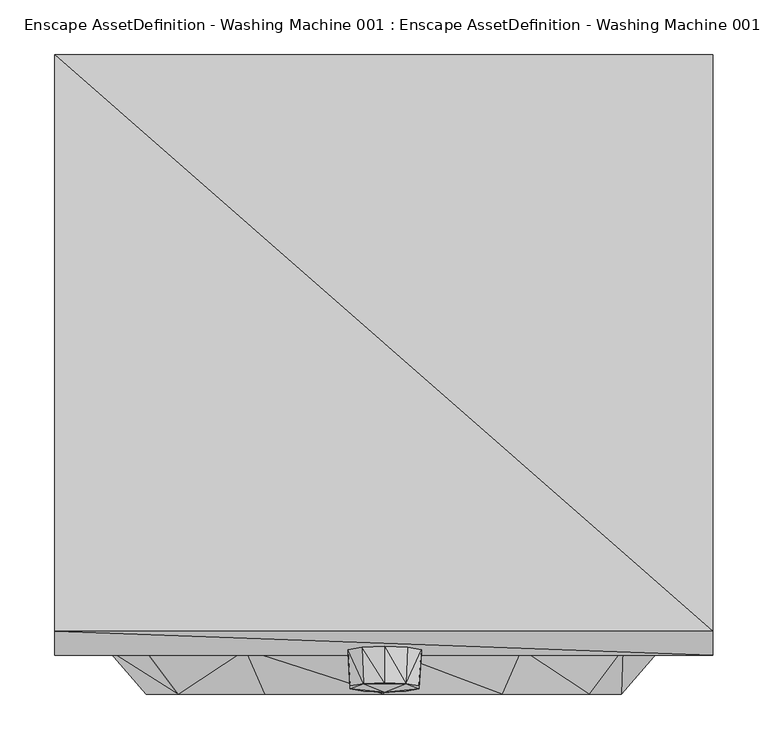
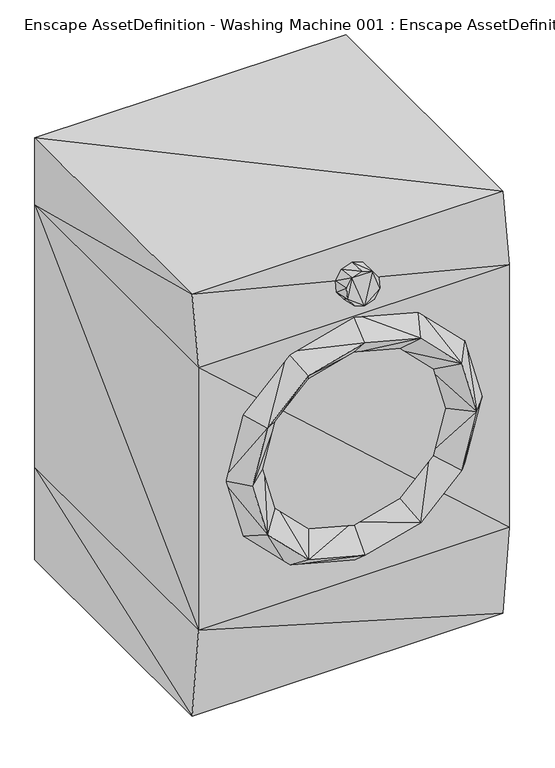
"""IFC4 building model written with IfcOpenShell, lengths in millimetres: geographic element geometry, Enscape AssetDefinition - Washing Machine 001 : Enscape AssetDefinition - Washing Machine 001."""

import ifcopenshell
import ifcopenshell.guid

model = None  # the IFC model being written
_history = None  # IfcOwnerHistory: only IFC2X3 demands one
_inside = {}  # id of a spatial element -> (the spatial element, [elements in it])
_under = {}  # id of a project, library or spatial element -> (it, [spatial elements below it])
_declared = {}  # id of a project -> (the project, [libraries it declares])
_typed = {}  # id of a type object -> (the type object, [elements of that type])
_made_of = {}  # id of a material, layer set ... -> (it, [elements and type objects made of it])


def new_model(schema):
    """Start an empty IFC model of exactly this schema.

    Asked for "IFC4X3", IfcOpenShell would pick the latest addendum, in which some entities
    have other attributes; the version numbers below select the first issue.
    IFC2X3 requires an IfcOwnerHistory on every rooted entity: one is made here for all.
    """
    global model, _history
    if schema == "IFC4X3":
        model = ifcopenshell.file(schema_version=(4, 3, 0, 0))
    else:
        model = ifcopenshell.file(schema=schema)
    _inside.clear()
    _under.clear()
    _declared.clear()
    _typed.clear()
    _made_of.clear()
    _history = None
    if model.schema == "IFC2X3":
        org = make("IfcOrganization", Name="unknown")
        user = make(
            "IfcPersonAndOrganization",
            ThePerson=make("IfcPerson", FamilyName="unknown"),
            TheOrganization=org,
        )
        app = make(
            "IfcApplication",
            ApplicationDeveloper=org,
            Version="unknown",
            ApplicationFullName="unknown",
            ApplicationIdentifier="unknown",
        )
        _history = make(
            "IfcOwnerHistory",
            OwningUser=user,
            OwningApplication=app,
            ChangeAction="ADDED",
            CreationDate=0,
        )
    return model


def make(cls, **values):
    """One entity of the class cls with the attributes given. An attribute that is None is left unset."""
    return model.create_entity(
        cls, **{name: value for name, value in values.items() if value is not None}
    )


def rooted(cls, **values):
    """An entity with a GlobalId (a new one), such as an element, a storey or a relation."""
    return make(cls, GlobalId=ifcopenshell.guid.new(), OwnerHistory=_history, **values)


def si_unit(unit_type, name, prefix=None):
    """IfcSIUnit, for example si_unit("LENGTHUNIT", "METRE", prefix="MILLI")."""
    return make("IfcSIUnit", UnitType=unit_type, Prefix=prefix, Name=name)


def assignment(units):
    """IfcUnitAssignment: the units of a project."""
    return None if units is None else make("IfcUnitAssignment", Units=units)


def point(xyz):
    """IfcCartesianPoint."""
    return None if xyz is None else make("IfcCartesianPoint", Coordinates=xyz)


def direction(xyz):
    """IfcDirection."""
    return None if xyz is None else make("IfcDirection", DirectionRatios=xyz)


def frame(location, z_axis=None, x_axis=None):
    """IfcAxis2Placement3D, a coordinate frame: its origin and axes. An axis left out is left unset."""
    return make(
        "IfcAxis2Placement3D",
        Location=point(location),
        Axis=direction(z_axis),
        RefDirection=direction(x_axis),
    )


def origin():
    """The frame at (0, 0, 0) with its axes left unset."""
    return frame((0.0, 0.0, 0.0))


def place(relative_to, where):
    """IfcLocalPlacement: puts the frame where relative to a parent placement (None: the world)."""
    return make(
        "IfcLocalPlacement", PlacementRelTo=relative_to, RelativePlacement=where
    )


def context(
    kind, dimensions, precision=None, world=None, true_north=None, identifier=None
):
    """IfcGeometricRepresentationContext, for example the 3D "Model" context."""
    return make(
        "IfcGeometricRepresentationContext",
        ContextIdentifier=identifier,
        ContextType=kind,
        CoordinateSpaceDimension=dimensions,
        Precision=precision,
        WorldCoordinateSystem=world,
        TrueNorth=true_north,
    )


def project(units=None, contexts=None):
    """IfcProject with its units and contexts."""
    return rooted(
        "IfcProject",
        Name="project",
        RepresentationContexts=contexts,
        UnitsInContext=assignment(units),
    )


def spatial(cls, under=None, at=None, **own):
    """A site, building, storey or space (cls), placed at a placement, below another one or the project."""
    s = rooted(cls, ObjectPlacement=at, **own)
    if under is not None:
        _under.setdefault(under.id(), (under, []))[1].append(s)
    return s


def faces_of(points, faces, orient=None, outer=None):
    """IfcFace entities. A face is a list of loops; a loop is a list of indices into points, from 0.

    orient and outer hold one flag for each loop. By default every Orientation is true, the
    first loop of a face is its IfcFaceOuterBound and the others are IfcFaceBound.
    """
    made = []
    for i, loops in enumerate(faces):
        bounds = []
        for j, loop in enumerate(loops):
            is_outer = j == 0 if outer is None else outer[i][j]
            bounds.append(
                make(
                    "IfcFaceOuterBound" if is_outer else "IfcFaceBound",
                    Bound=make("IfcPolyLoop", Polygon=[points[k] for k in loop]),
                    Orientation=True if orient is None else orient[i][j],
                )
            )
        made.append(make("IfcFace", Bounds=bounds))
    return made


def faceted_brep(points, faces, orient=None, outer=None, voids=None):
    """IfcFacetedBrep: a solid bounded by flat faces; with voids (closed shells), ...WithVoids."""
    shared = [point(p) for p in points]
    hull = make("IfcClosedShell", CfsFaces=faces_of(shared, faces, orient, outer))
    if voids is None:
        return make("IfcFacetedBrep", Outer=hull)
    return make(
        "IfcFacetedBrepWithVoids",
        Outer=hull,
        Voids=[
            make(cls, CfsFaces=faces_of(shared, fs, o, b)) for cls, fs, o, b in voids
        ],
    )


def shape(context_of_items, identifier, shape_type, items):
    """IfcShapeRepresentation: the items that make up one representation, for example the "Body"."""
    return make(
        "IfcShapeRepresentation",
        ContextOfItems=context_of_items,
        RepresentationIdentifier=identifier,
        RepresentationType=shape_type,
        Items=items,
    )


def source(mapping_origin, context_of_items, identifier, shape_type, items):
    """IfcRepresentationMap: a shape defined once, which mapped items show again and again."""
    return make(
        "IfcRepresentationMap",
        MappingOrigin=mapping_origin,
        MappedRepresentation=shape(context_of_items, identifier, shape_type, items),
    )


def transform(
    local_origin,
    x_axis=None,
    y_axis=None,
    z_axis=None,
    scale=None,
    scale2=None,
    scale3=None,
    uniform=True,
):
    """IfcCartesianTransformationOperator3D, or its non-uniform kind. x_axis, y_axis, z_axis: its Axis1, 2, 3."""
    if uniform:
        return make(
            "IfcCartesianTransformationOperator3D",
            Axis1=direction(x_axis),
            Axis2=direction(y_axis),
            LocalOrigin=point(local_origin),
            Scale=scale,
            Axis3=direction(z_axis),
        )
    return make(
        "IfcCartesianTransformationOperator3DnonUniform",
        Axis1=direction(x_axis),
        Axis2=direction(y_axis),
        LocalOrigin=point(local_origin),
        Scale=scale,
        Axis3=direction(z_axis),
        Scale2=scale2,
        Scale3=scale3,
    )


def mapped(mapping_source, mapping_target):
    """IfcMappedItem: shows the shape of a source again, moved by a transform."""
    return make(
        "IfcMappedItem", MappingSource=mapping_source, MappingTarget=mapping_target
    )


def made_of(thing, what):
    """Note that an element or type object is made of a material, layer set ...; save() writes the relation."""
    if what is not None:
        _made_of.setdefault(what.id(), (what, []))[1].append(thing)
    return thing


def element(
    cls,
    number,
    at=None,
    inside=None,
    cuts=None,
    type_object=None,
    material=None,
    context=None,
    identifier="Body",
    shape_type=None,
    held_by="IfcProductDefinitionShape",
    body=None,
    shapes=None,
    **own,
):
    """One element of the class cls, such as IfcWall. Its Tag is "e" and its number.

    at: its placement. inside: the storey or other place that contains it. cuts: it is an
    opening in that element (IfcRelVoidsElement). A single representation is given by context,
    identifier, shape_type and body (its items); several are given by shapes. held_by: the class
    of the entity that holds the representations. save() writes the other relations.
    """
    e = rooted(cls, Tag="e%d" % number, ObjectPlacement=at, **own)
    if body is not None:
        shapes = [shape(context, identifier, shape_type, body)]
    if shapes is not None:
        e.Representation = make(held_by, Representations=shapes)
    if inside is not None:
        _inside.setdefault(inside.id(), (inside, []))[1].append(e)
    if cuts is not None:
        rooted(
            "IfcRelVoidsElement", RelatingBuildingElement=cuts, RelatedOpeningElement=e
        )
    if type_object is not None:
        _typed.setdefault(type_object.id(), (type_object, []))[1].append(e)
    return made_of(e, material)


def aggregate(whole, parts):
    """IfcRelAggregates: a whole, such as a stair, and the parts it consists of."""
    return rooted("IfcRelAggregates", RelatingObject=whole, RelatedObjects=parts)


def save(model, path):
    """Write the relations noted so far, then the file.

    IfcRelAggregates (storeys below a building ...), IfcRelContainedInSpatialStructure (elements
    in a storey), IfcRelDefinesByType, IfcRelAssociatesMaterial and IfcRelDeclares: one each for
    every whole, place, type object, material and project.
    """
    for whole, parts in _under.values():
        aggregate(whole, parts)
    for where, things in _inside.values():
        rooted(
            "IfcRelContainedInSpatialStructure",
            RelatedElements=things,
            RelatingStructure=where,
        )
    for kind, things in _typed.values():
        rooted("IfcRelDefinesByType", RelatedObjects=things, RelatingType=kind)
    for what, things in _made_of.values():
        rooted("IfcRelAssociatesMaterial", RelatedObjects=things, RelatingMaterial=what)
    for by, libraries in _declared.values():
        rooted("IfcRelDeclares", RelatingContext=by, RelatedDefinitions=libraries)
    model.write(path)


def enscape_assetdefinition_washing_machine_001_enscape_1ae1e846(model_context):
    return source(origin(), model_context, "Body", "Brep", [
        faceted_brep([(0.7596256, -272.0038891, 756.3675642), (-19.8820289, -263.5681331, 819.3345666), (21.4022771, -263.5681331, 819.3345666), (0.7596256, -262.6767457, 825.982511), (0.7596256, -295.9475517, 828.1925321), (-32.6399468, -265.8989131, 801.9310832), (-18.5733959, -296.7820168, 821.9668269), (-32.6399468, -268.7816918, 780.4190516), (20.0926475, -296.7820168, 821.9668269), (0.7596256, -304.6827316, 762.9925013), (32.0420265, -298.96608, 805.6663275), (34.1591984, -265.8989131, 801.9310832), (32.0420265, -301.6651869, 785.5187654), (34.1591984, -268.7816918, 780.4190516), (20.0926475, -303.8482368, 769.218266), (21.4022771, -271.1124718, 763.0155087), (-19.8820289, -271.1124718, 763.0155087), (-18.5733959, -303.8482368, 769.218266), (-30.5217784, -301.6651869, 785.5187654), (-30.5217784, -298.96608, 805.6663275)], [[[0, 1, 2]], [[3, 1, 4]], [[1, 5, 6]], [[1, 7, 5]], [[2, 1, 3]], [[0, 7, 1]], [[4, 1, 6]], [[8, 3, 4]], [[6, 8, 4]], [[2, 3, 8]], [[6, 9, 8]], [[10, 11, 8]], [[8, 12, 10]], [[8, 9, 12]], [[8, 11, 2]], [[13, 11, 12]], [[13, 2, 11]], [[12, 11, 10]], [[14, 15, 12]], [[12, 15, 13]], [[12, 9, 14]], [[2, 13, 15]], [[2, 15, 0]], [[0, 15, 9]], [[9, 15, 14]], [[16, 0, 17]], [[7, 0, 16]], [[17, 0, 9]], [[18, 16, 17]], [[9, 18, 17]], [[7, 16, 18]], [[5, 7, 19]], [[19, 7, 18]], [[18, 6, 19]], [[9, 6, 18]], [[6, 5, 19]]]),
        faceted_brep([(-299.2864847, -249.4297028, 0.0), (-299.2864847, 274.9695182, 0.0), (299.2864847, -249.4297028, 0.0), (299.2864847, 274.9695182, 0.0), (299.2864847, 274.9695182, 187.4997616), (-299.2864847, 274.9695182, 187.4997616), (-299.2864847, -271.0506022, 187.4997616), (299.2864847, -271.0506022, 187.4997616), (299.2864847, 274.9695182, 721.4477062), (299.2864847, -271.0506022, 721.4477062), (-299.2864847, 274.9695182, 721.4477062), (-299.2864847, -271.0506022, 721.4477062), (-299.2864847, -249.4297028, 857.7939868), (299.2864847, -249.4297028, 857.7939868), (299.2864847, 274.9695182, 857.7939868), (-299.2864847, 274.9695182, 857.7939868)], [[[0, 1, 2]], [[3, 1, 4]], [[1, 0, 5]], [[2, 1, 3]], [[4, 1, 5]], [[0, 2, 6]], [[5, 0, 6]], [[7, 2, 4]], [[4, 2, 3]], [[6, 2, 7]], [[8, 9, 4]], [[5, 8, 4]], [[4, 9, 7]], [[10, 8, 5]], [[6, 10, 5]], [[11, 10, 6]], [[7, 11, 6]], [[9, 11, 7]], [[11, 9, 12]], [[9, 8, 13]], [[12, 9, 13]], [[8, 10, 14]], [[13, 8, 14]], [[15, 10, 12]], [[12, 10, 11]], [[14, 10, 15]], [[12, 13, 15]], [[15, 13, 14]]]),
        faceted_brep([(187.2711778, -306.6362143, 580.9090137), (216.241762, -306.6362143, 472.7885723), (217.7729905, -265.9058869, 598.5190868), (187.2701794, -306.6362143, 364.667207), (251.4620423, -265.9058869, 472.7885723), (171.3998914, -267.1955824, 472.7885723), (148.436442, -267.1955824, 558.4885478), (148.436442, -267.1955824, 387.0886564), (108.1203744, -306.6362143, 285.5173945), (217.7729905, -265.9058869, 347.0570743), (85.6999457, -267.1955824, 621.225059), (108.1213802, -306.6362143, 660.0587368), (0.0, -267.1955824, 644.1884637), (125.7315129, -265.9058869, 690.5615926), (0.0, -306.6362143, 689.0303493), (0.0, -265.9058869, 724.2506742), (-125.7315129, -265.9058869, 690.5615926), (-108.1203744, -306.6362143, 660.0587368), (-85.6999457, -267.1955824, 621.225059), (-217.7729905, -265.9058869, 598.5201001), (-187.2701794, -306.6362143, 580.9090137), (-148.436442, -267.1955824, 558.4885478), (-216.241762, -306.6362143, 472.7885723), (-251.4620423, -265.9058869, 472.7885723), (-171.3998914, -267.1955824, 472.7885723), (-217.7729905, -265.9058869, 347.0570743), (-187.2701794, -306.6362143, 364.667207), (-148.436442, -267.1955824, 387.0886564), (-108.1203744, -306.6362143, 285.5173945), (-125.7315129, -265.9058869, 255.0156116), (-85.6999457, -267.1955824, 324.352175), (0.0, -267.1955824, 301.3887107), (0.0, -306.6362143, 256.5468252), (0.0, -265.9058869, 221.3255614), (125.7315129, -265.9058869, 255.0156116), (85.6999457, -267.1955824, 324.352175)], [[[0, 1, 2]], [[1, 3, 4]], [[5, 1, 6]], [[3, 1, 7]], [[2, 1, 4]], [[6, 1, 0]], [[7, 1, 5]], [[3, 8, 9]], [[4, 3, 9]], [[7, 8, 3]], [[4, 9, 5]], [[2, 4, 6]], [[6, 4, 5]], [[6, 0, 10]], [[10, 2, 6]], [[10, 11, 12]], [[13, 2, 10]], [[10, 0, 11]], [[12, 13, 10]], [[11, 0, 13]], [[14, 11, 15]], [[15, 11, 13]], [[12, 11, 14]], [[15, 13, 12]], [[13, 0, 2]], [[16, 14, 15]], [[12, 16, 15]], [[17, 14, 16]], [[14, 17, 12]], [[18, 16, 12]], [[12, 17, 18]], [[19, 20, 16]], [[19, 16, 21]], [[16, 20, 17]], [[21, 16, 18]], [[18, 17, 21]], [[21, 17, 20]], [[22, 20, 23]], [[20, 22, 21]], [[23, 20, 19]], [[21, 23, 19]], [[24, 23, 21]], [[21, 22, 24]], [[25, 26, 23]], [[25, 23, 27]], [[23, 26, 22]], [[27, 23, 24]], [[22, 26, 24]], [[24, 26, 27]], [[28, 26, 29]], [[26, 28, 27]], [[29, 26, 25]], [[29, 25, 30]], [[30, 25, 27]], [[27, 28, 30]], [[30, 28, 31]], [[29, 32, 28]], [[31, 28, 32]], [[33, 32, 29]], [[33, 29, 31]], [[31, 29, 30]], [[32, 8, 31]], [[33, 31, 34]], [[31, 8, 35]], [[34, 31, 35]], [[8, 32, 34]], [[34, 32, 33]], [[35, 8, 7]], [[9, 8, 34]], [[35, 9, 34]], [[7, 9, 35]], [[5, 9, 7]]]),
    ])


if __name__ == "__main__":
    model = new_model("IFC4")
    model_context = context("Model", 3, world=origin())
    ifc_project = project(units=[si_unit("LENGTHUNIT", "METRE", prefix="MILLI")], contexts=[model_context])
    site = spatial("IfcSite", under=ifc_project)
    building = spatial("IfcBuilding", under=site)
    placement = place(None, origin())
    enscape_assetdefinition_washing_machine_001_enscape_shape = enscape_assetdefinition_washing_machine_001_enscape_1ae1e846(model_context)
    element("IfcGeographicElement", 1, ObjectType="Enscape AssetDefinition - Washing Machine 001 : Enscape AssetDefinition - Washing Machine 001", at=placement, inside=building, context=model_context, shape_type="MappedRepresentation", body=[
        mapped(enscape_assetdefinition_washing_machine_001_enscape_shape, transform((0.0, 0.0, 0.0), x_axis=(1.0, 0.0, 0.0), y_axis=(0.0, 1.0, 0.0), z_axis=(0.0, 0.0, 1.0))),
    ])
    save(model, "model.ifc")
